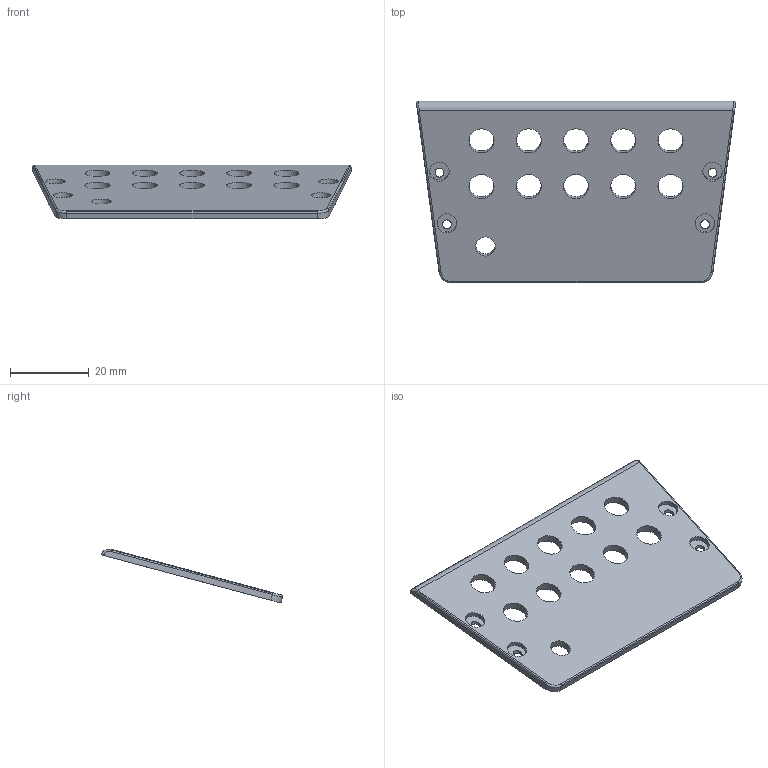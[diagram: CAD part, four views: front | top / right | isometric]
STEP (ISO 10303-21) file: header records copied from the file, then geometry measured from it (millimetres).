
FILE_DESCRIPTION(('STEP AP214'),'1');
FILE_NAME('05Flat Panel Front Cover v19.stp','2020-04-02T22:07:02',(' '),(' '),'Spatial InterOp 3D',' ',' ');
FILE_SCHEMA(('AUTOMOTIVE_DESIGN { 1 0 10303 214 1 1 1 1 }'));
Length unit declared in the file: metre
Products named in the file (1): Corps
Bounding box: 80.98 x 46.02 x 13.71 mm (x, y, z)
Volume: 6214.2 mm3; surface area: 7280.3 mm2
Topology: 1 solids, 1 shells, 61 faces, 177 edges, 122 vertices
Faces by surface type: cylinder 46, plane 9, bspline 6
Entity records: 3282 total; most frequent: CARTESIAN_POINT 1489, DIRECTION 397, ORIENTED_EDGE 354, EDGE_CURVE 177, AXIS2_PLACEMENT_3D 170, VERTEX_POINT 122, EDGE_LOOP 95, CIRCLE 82
